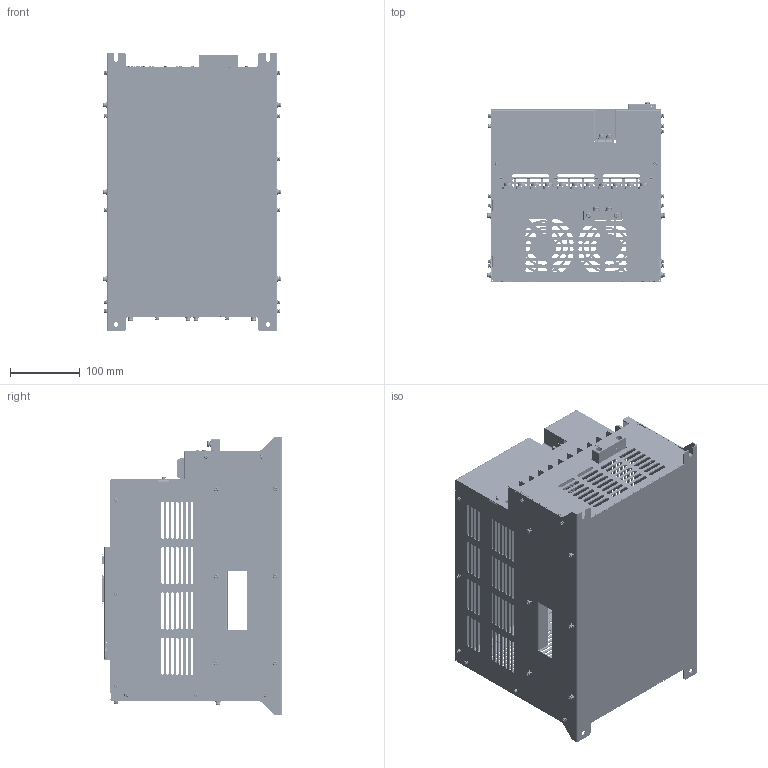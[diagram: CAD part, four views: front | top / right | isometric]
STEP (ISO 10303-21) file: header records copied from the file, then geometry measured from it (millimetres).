
FILE_DESCRIPTION (( 'STEP AP203' ), '1' );
FILE_NAME ('L7S_ 15kW_200V(NEW)睡ヶ餉薯.STEP', '2017-07-21T01:13:16', ( '' ), ( '' ), 'SwSTEP 2.0', 'SolidWorks 2011', '' );
FILE_SCHEMA (( 'CONFIG_CONTROL_DESIGN' ));
Products named in the file (1): L7S_ 15kW_200V(NEW)睡ヶ餉薯
Bounding box: 255.2 x 258.81 x 400 mm (x, y, z)
Volume: 803420.6 mm3; surface area: 997390.2 mm2
Topology: 203 solids, 203 shells, 10980 faces, 29445 edges, 19274 vertices
Faces by surface type: plane 7157, cylinder 2611, bspline 935, torus 231, cone 28, sphere 18
Entity records: 400622 total; most frequent: CARTESIAN_POINT 128808, ORIENTED_EDGE 58840, DIRECTION 52184, EDGE_CURVE 29420, LINE 20616, VECTOR 20616, VERTEX_POINT 19274, AXIS2_PLACEMENT_3D 15784
